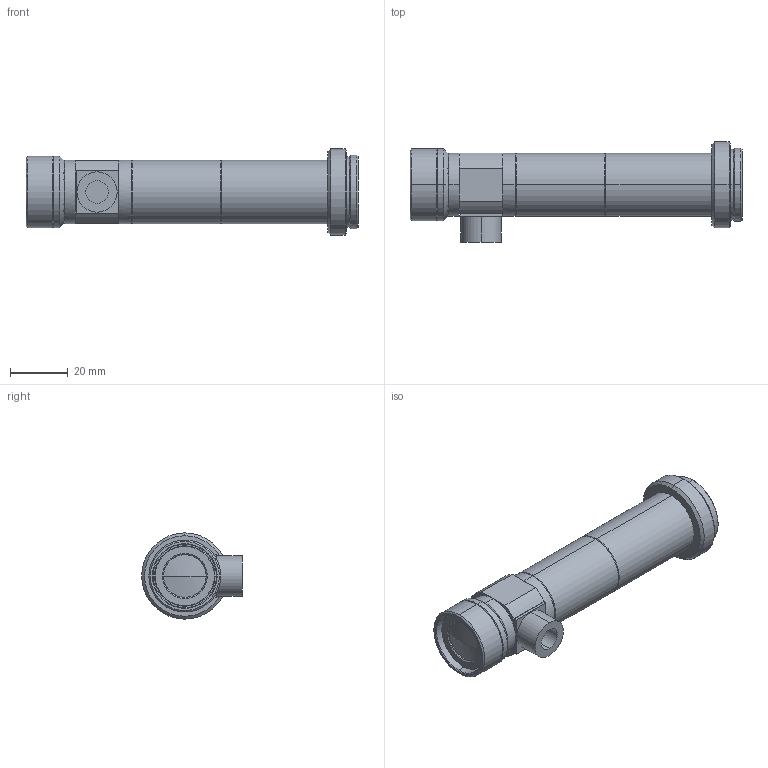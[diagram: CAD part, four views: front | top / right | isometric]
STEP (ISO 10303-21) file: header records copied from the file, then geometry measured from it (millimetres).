
FILE_DESCRIPTION (( 'STEP AP203' ), '1' );
FILE_NAME ('TCH3-60CO.STEP', '2014-04-07T00:11:56', ( '' ), ( '' ), 'SwSTEP 2.0', 'SolidWorks 2014', '' );
FILE_SCHEMA (( 'CONFIG_CONTROL_DESIGN' ));
Length unit declared in the file: millimetre
Products named in the file (1): TCH3-60CO
Bounding box: 115.4 x 35 x 30 mm (x, y, z)
Volume: 31165.6 mm3; surface area: 15819.5 mm2
Topology: 1 solids, 1 shells, 163 faces, 334 edges, 192 vertices
Faces by surface type: cone 70, cylinder 52, plane 37, sphere 4
Entity records: 4327 total; most frequent: DIRECTION 840, CARTESIAN_POINT 690, ORIENTED_EDGE 668, AXIS2_PLACEMENT_3D 342, EDGE_CURVE 334, VERTEX_POINT 192, EDGE_LOOP 182, CIRCLE 178
